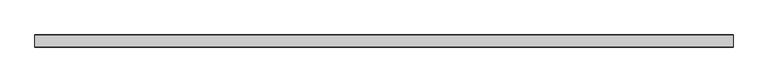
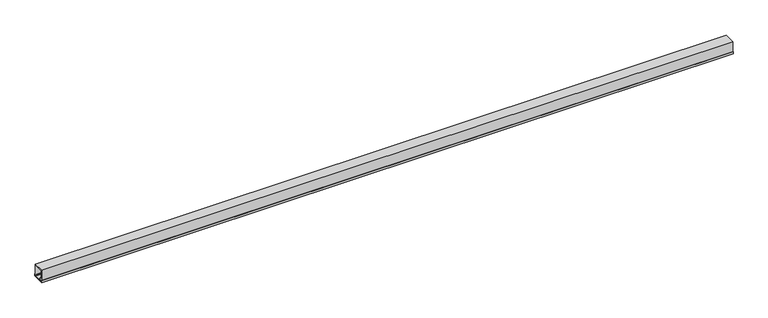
"""IFC4 building model written with IfcOpenShell, lengths in millimetres: light fixture geometry, 20207_レースウェイ : 45型×w40."""

from ifc_helpers import new_model, si_unit, frame, origin, place, context, project, spatial, polyline, outline, extrude, source, transform, mapped, element, save


def light_fixture_8ff2b108(model_context):
    return source(origin(), model_context, "Body", "SweptSolid", [
        extrude(outline(polyline([(-21.7, 8.2), (-20.5, 8.2), (-20.5, 1.2), (20.5, 1.2), (20.5, 8.2), (21.7, 8.2), (21.7, 0.0), (-21.7, 0.0), (-21.7, 8.2)])), frame((-1245.8731434, 0.0, 0.0), z_axis=(1.0, 0.0, 0.0), x_axis=(0.0, 1.0, 0.0)), (0.0, 0.0, 1.0), 2491.7462867),
        extrude(outline(polyline([(-20.0, 46.2), (20.0, 46.2), (20.0, 1.2), (18.4, 1.2), (10.0, 11.2), (11.2251278, 12.2291073), (18.4, 3.6875928), (18.4, 44.6), (-18.4, 44.6), (-18.4, 3.6875928), (-11.2251278, 12.2291073), (-10.0, 11.2), (-18.4, 1.2), (-20.0, 1.2), (-20.0, 46.2)])), frame((-1245.8731434, 0.0, 0.0), z_axis=(1.0, 0.0, 0.0), x_axis=(0.0, 1.0, 0.0)), (0.0, 0.0, 1.0), 2491.7462867),
    ])


if __name__ == "__main__":
    model = new_model("IFC4")
    model_context = context("Model", 3, world=origin())
    ifc_project = project(units=[si_unit("LENGTHUNIT", "METRE", prefix="MILLI")], contexts=[model_context])
    site = spatial("IfcSite", under=ifc_project)
    building = spatial("IfcBuilding", under=site)
    placement = place(None, origin())
    light_fixture_shape = light_fixture_8ff2b108(model_context)
    element("IfcLightFixture", 1, ObjectType="20207_レースウェイ : 45型×w40", at=placement, inside=building, context=model_context, shape_type="MappedRepresentation", body=[
        mapped(light_fixture_shape, transform((0.0, 0.0, 0.0), x_axis=(1.0, 0.0, 0.0), y_axis=(0.0, 1.0, 0.0), z_axis=(0.0, 0.0, 1.0))),
    ])
    save(model, "model.ifc")
